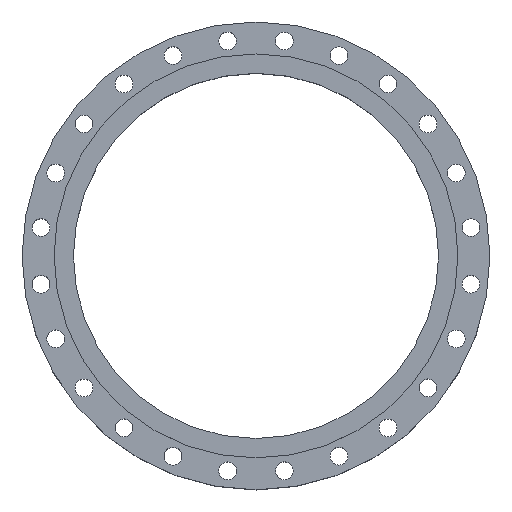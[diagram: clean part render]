
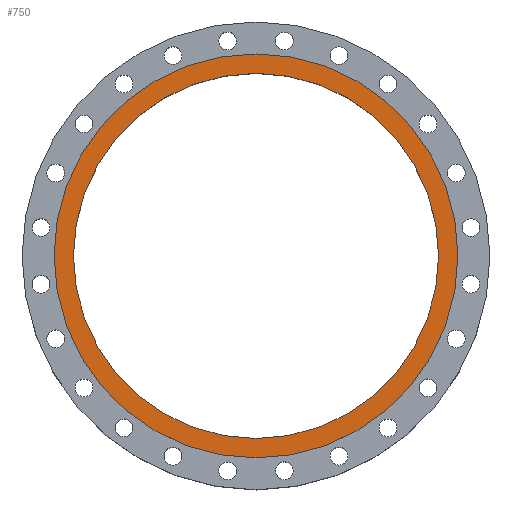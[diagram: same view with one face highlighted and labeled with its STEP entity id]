
A CAD part, top view. The second image highlights one B-rep face of the part: STEP entity #750.
In plain terms, the highlighted planar face has unit normal (0, 0, 1).
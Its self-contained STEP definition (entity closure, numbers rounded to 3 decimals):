
#750=ADVANCED_FACE('',(#1679,#1681),#1683,.T.);
#1679=FACE_BOUND('',#1680,.T.);
#1680=EDGE_LOOP('',(#2044));
#1681=FACE_BOUND('',#1682,.T.);
#1682=EDGE_LOOP('',(#2045));
#1683=PLANE('',#1684);
#1684=AXIS2_PLACEMENT_3D('',#1685,#1686,#1687);
#1685=CARTESIAN_POINT('',(0.,0.,130.));
#1686=DIRECTION('',(0.,0.,1.));
#1687=DIRECTION('',(0.,1.,0.));
#2044=ORIENTED_EDGE('',*,*,#2208,.F.);
#2045=ORIENTED_EDGE('',*,*,#2210,.T.);
#2208=EDGE_CURVE('',#2502,#2502,#2503,.T.);
#2210=EDGE_CURVE('',#2506,#2506,#2507,.T.);
#2502=VERTEX_POINT('',#4148);
#2503=CIRCLE('',#4149,442.5);
#2506=VERTEX_POINT('',#4158);
#2507=CIRCLE('',#4159,400.);
#4148=CARTESIAN_POINT('',(0.,442.5,130.));
#4149=AXIS2_PLACEMENT_3D('',#4150,#4151,#4152);
#4150=CARTESIAN_POINT('',(0.,0.,130.));
#4151=DIRECTION('',(0.,0.,-1.));
#4152=DIRECTION('',(0.,1.,0.));
#4158=CARTESIAN_POINT('',(0.,400.,130.));
#4159=AXIS2_PLACEMENT_3D('',#4160,#4161,#4162);
#4160=CARTESIAN_POINT('',(0.,0.,130.));
#4161=DIRECTION('',(0.,0.,-1.));
#4162=DIRECTION('',(0.,1.,0.));
